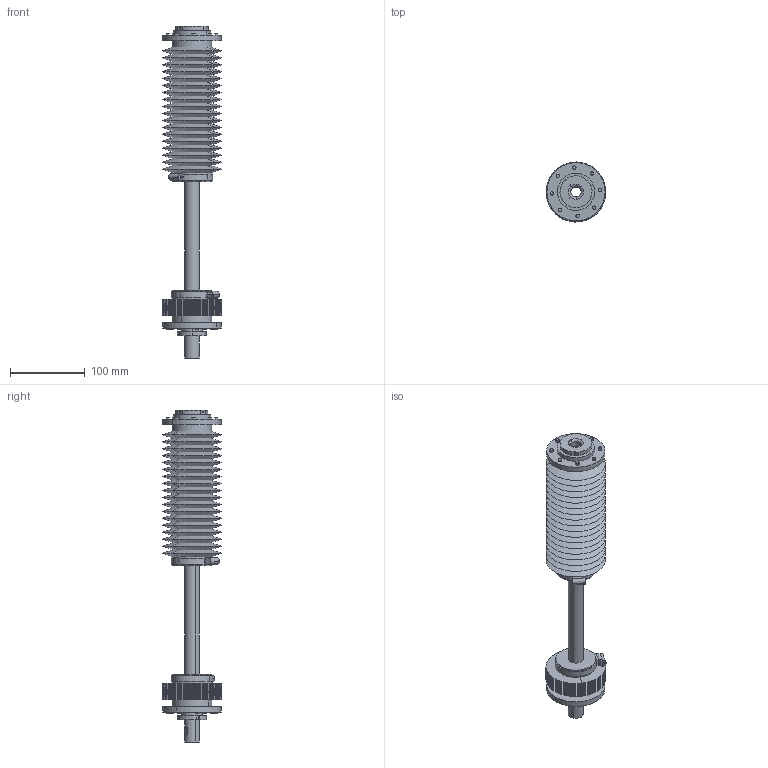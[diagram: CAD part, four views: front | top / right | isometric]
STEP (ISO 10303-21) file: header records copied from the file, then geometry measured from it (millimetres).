
FILE_DESCRIPTION (( 'STEP AP214' ), '1' );
FILE_NAME ('IRB920_6kg-650-145-IP54-BTM_OmniCore_rev00_LINK3.STEP', '2022-06-20T07:30:51', ( '' ), ( '' ), 'SwSTEP 2.0', 'SolidWorks 2020', '' );
FILE_SCHEMA (( 'AUTOMOTIVE_DESIGN' ));
Length unit declared in the file: millimetre
Products named in the file (1): IRB920_6kg-650-145-IP54-BTM_OmniCore_rev00_LINK3
Bounding box: 79.99 x 79.99 x 445.1 mm (x, y, z)
Volume: 834185.8 mm3; surface area: 290084 mm2
Topology: 1 solids, 1 shells, 320 faces, 695 edges, 412 vertices
Faces by surface type: cone 148, cylinder 90, plane 80, torus 2
Entity records: 9000 total; most frequent: CARTESIAN_POINT 1779, DIRECTION 1645, ORIENTED_EDGE 1382, EDGE_CURVE 691, AXIS2_PLACEMENT_3D 645, VERTEX_POINT 412, EDGE_LOOP 361, LINE 355
